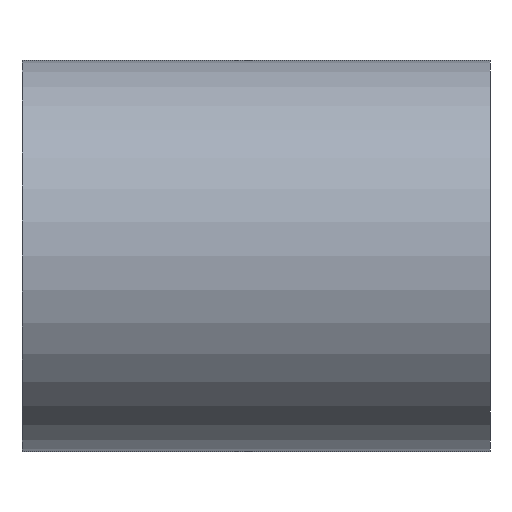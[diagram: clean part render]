
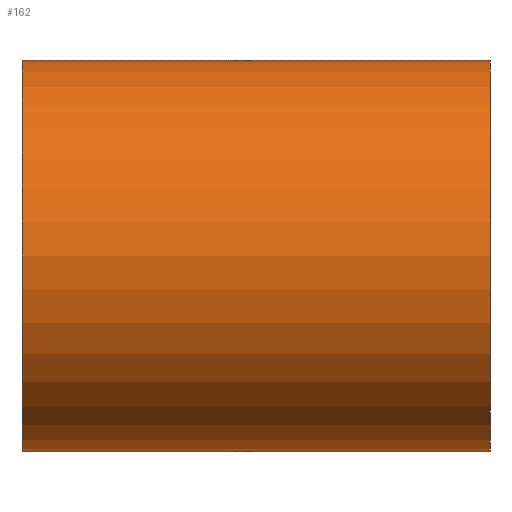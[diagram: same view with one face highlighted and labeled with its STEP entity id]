
A CAD part, front view. The second image highlights one B-rep face of the part: STEP entity #162.
In plain terms, the highlighted cylindrical face has radius 395 mm (diameter 790 mm), a partial arc.
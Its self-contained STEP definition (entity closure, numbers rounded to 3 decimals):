
#162=ADVANCED_FACE('',(#326),#327,.T.);
#326=FACE_OUTER_BOUND('',#509,.T.);
#327=CYLINDRICAL_SURFACE('',#510,395.0);
#509=EDGE_LOOP('',(#927,#928,#929,#930));
#510=AXIS2_PLACEMENT_3D('',#931,#932,#933);
#927=ORIENTED_EDGE('',*,*,#999,.T.);
#928=ORIENTED_EDGE('',*,*,#1173,.F.);
#929=ORIENTED_EDGE('',*,*,#1001,.T.);
#930=ORIENTED_EDGE('',*,*,#1174,.F.);
#931=CARTESIAN_POINT('',(0.0,0.0,0.0));
#932=DIRECTION('',(1.0,0.0,0.0));
#933=DIRECTION('',(0.0,0.0,-1.0));
#999=EDGE_CURVE('',#1178,#1179,#1180,.T.);
#1001=EDGE_CURVE('',#1183,#1181,#1184,.T.);
#1173=EDGE_CURVE('',#1183,#1179,#1439,.T.);
#1174=EDGE_CURVE('',#1178,#1181,#1440,.T.);
#1178=VERTEX_POINT('',#1444);
#1179=VERTEX_POINT('',#1445);
#1180=LINE('',#1446,#1447);
#1181=VERTEX_POINT('',#1448);
#1183=VERTEX_POINT('',#1450);
#1184=LINE('',#1451,#1452);
#1439=CIRCLE('',#1759,395.0);
#1440=CIRCLE('',#1760,395.0);
#1444=CARTESIAN_POINT('',(-472.5,0.0,-395.0));
#1445=CARTESIAN_POINT('',(472.5,0.0,-395.0));
#1446=CARTESIAN_POINT('',(0.0,0.,-395.0));
#1447=VECTOR('',#1763,1.0);
#1448=CARTESIAN_POINT('',(-472.5,0.,395.0));
#1450=CARTESIAN_POINT('',(472.5,0.,395.0));
#1451=CARTESIAN_POINT('',(0.0,0.,395.0));
#1452=VECTOR('',#1767,1.0);
#1759=AXIS2_PLACEMENT_3D('',#2042,#2043,#2044);
#1760=AXIS2_PLACEMENT_3D('',#2045,#2046,#2047);
#1763=DIRECTION('',(1.0,0.0,0.0));
#1767=DIRECTION('',(-1.0,-0.0,-0.0));
#2042=CARTESIAN_POINT('',(472.5,0.0,0.0));
#2043=DIRECTION('',(1.0,0.0,0.0));
#2044=DIRECTION('',(0.0,0.0,-1.0));
#2045=CARTESIAN_POINT('',(-472.5,0.0,0.0));
#2046=DIRECTION('',(-1.0,0.0,0.0));
#2047=DIRECTION('',(0.0,0.0,-1.0));
